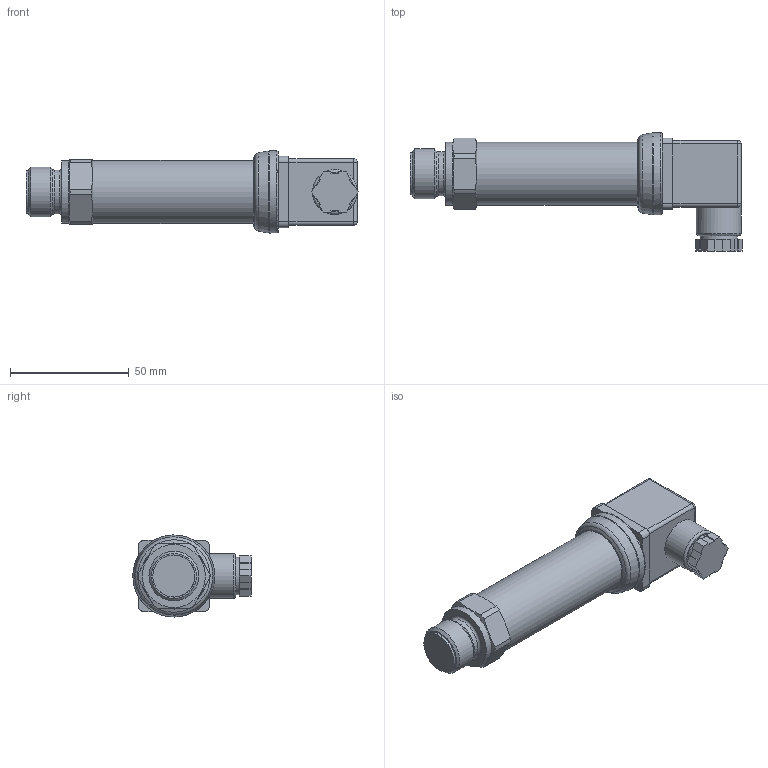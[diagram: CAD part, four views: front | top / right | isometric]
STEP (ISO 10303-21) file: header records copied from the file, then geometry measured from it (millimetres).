
FILE_DESCRIPTION(/* description */ (''),/* implementation_level */ '2;1');
FILE_NAME(/* name */ 'C:\Users\cz1166\Documents\STEP\DMP331Pi-50x-xxxx-x-x-100-Z00-1-x-x-100.stp',/* time_stamp */ '2020-04-20T15:45:34+02:00',/* author */ ('cz1166'),/* organization */ (''),/* preprocessor_version */ 'ST-DEVELOPER v16.5',/* originating_system */ 'Autodesk Inventor 2017',/* authorisation */ '');
FILE_SCHEMA (('AUTOMOTIVE_DESIGN { 1 0 10303 214 3 1 1 }'));
Length unit declared in the file: millimetre
Products named in the file (1): DMP331Pi-50x-xxxx-x-x-100-Z00-1-x-x-100
Bounding box: 139.59 x 49.75 x 34.5 mm (x, y, z)
Volume: 90352 mm3; surface area: 15595.9 mm2
Topology: 1 solids, 1 shells, 105 faces, 263 edges, 162 vertices
Faces by surface type: plane 61, cylinder 27, torus 7, cone 6, sphere 4
Full cylindrical faces by diameter (mm): 15.7 x1, 17.7 x1, 18.4 x1, 18.8 x1, 20.955 x1, 26.5 x2, 34.5 x1
Entity records: 3049 total; most frequent: CARTESIAN_POINT 526, DIRECTION 498, ORIENTED_EDGE 462, EDGE_CURVE 231, AXIS2_PLACEMENT_3D 175, VERTEX_POINT 155, LINE 148, VECTOR 148
